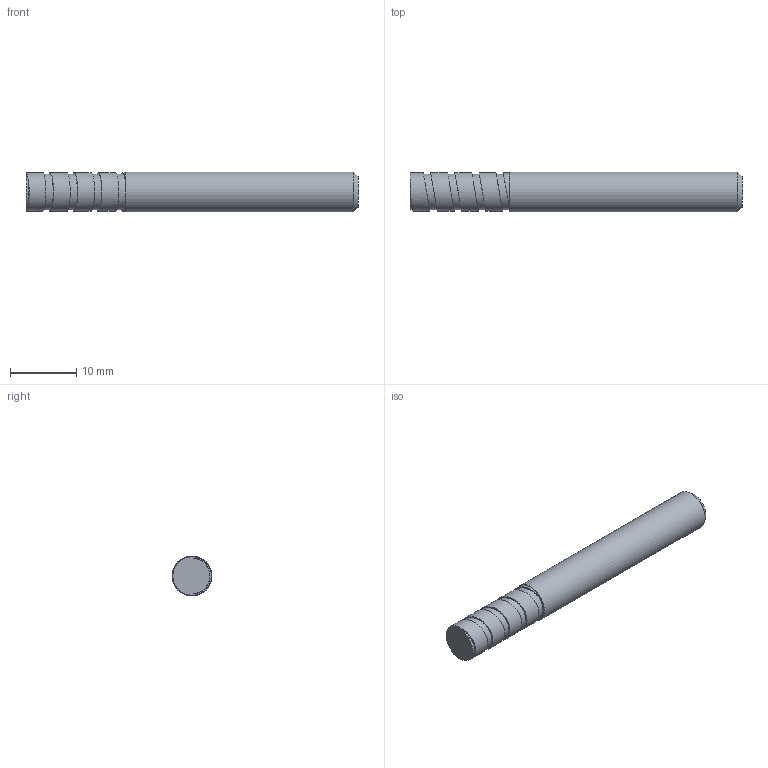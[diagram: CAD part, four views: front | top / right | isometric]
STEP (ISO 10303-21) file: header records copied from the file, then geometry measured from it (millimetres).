
FILE_DESCRIPTION(/* description */ ('STEP AP203'),/* implementation_level */ '2;1');
FILE_NAME(/* name */ 'P_MZ_FO_0098',/* time_stamp */ '2023-03-03T13:10:07+01:00',/* author */ ('License CC BY-ND 4.0'),/* organization */ ('CADENAS'),/* preprocessor_version */ 'ST-DEVELOPER v18.102',/* originating_system */ 'PARTsolutions',/* authorisation */ ' ');
FILE_SCHEMA (('CONFIG_CONTROL_DESIGN'));
Length unit declared in the file: millimetre
Products named in the file (1): P_MZ_FO_0098
Bounding box: 50 x 6 x 6 mm (x, y, z)
Volume: 1365.8 mm3; surface area: 1004.2 mm2
Topology: 1 solids, 1 shells, 24 faces, 41 edges, 27 vertices
Faces by surface type: plane 12, cylinder 11, cone 1
Full cylindrical faces by diameter (mm): 5.4 x4, 5.8 x4, 6 x1
Entity records: 544 total; most frequent: DIRECTION 104, CARTESIAN_POINT 79, ORIENTED_EDGE 58, AXIS2_PLACEMENT_3D 50, EDGE_LOOP 42, FACE_BOUND 42, EDGE_CURVE 29, VERTEX_POINT 25
